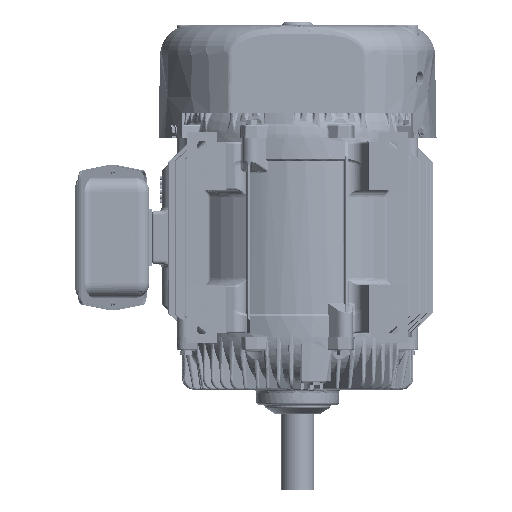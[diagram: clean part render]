
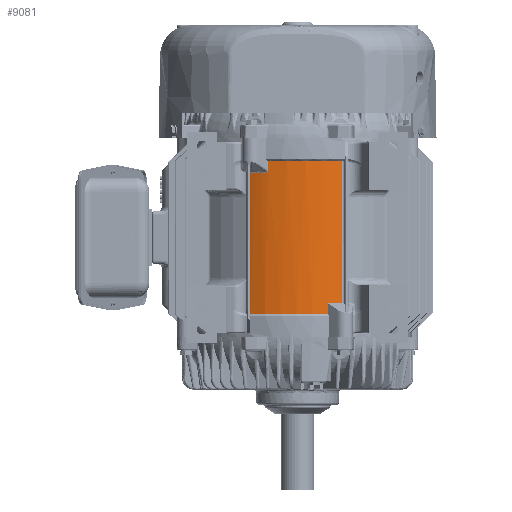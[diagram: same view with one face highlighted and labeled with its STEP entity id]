
A CAD part, front view. The second image highlights one B-rep face of the part: STEP entity #9081.
In plain terms, the highlighted cylindrical face has radius 187.071 mm (diameter 374.142 mm), a partial arc.
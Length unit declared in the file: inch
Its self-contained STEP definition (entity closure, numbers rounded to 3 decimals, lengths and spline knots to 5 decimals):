
#5463 = LINE ( 'NONE', #12067, #207748 ) ;
#8585 = CIRCLE ( 'NONE', #192288, 7.365 ) ;
#9081 = ADVANCED_FACE ( 'NONE', ( #324212 ), #295825, .T. ) ;
#9568 = AXIS2_PLACEMENT_3D ( 'NONE', #84508, #296386, #118580 ) ;
#10809 = EDGE_CURVE ( 'NONE', #81467, #57706, #19691, .T. ) ;
#12067 = CARTESIAN_POINT ( 'NONE',  ( -3.08364, -6.68838, -14.8255 ) ) ;
#16128 = EDGE_CURVE ( 'NONE', #292829, #345186, #364975, .T. ) ;
#19691 = B_SPLINE_CURVE_WITH_KNOTS ( 'NONE', 3,
 ( #265190, #176773, #207091, #354832, #263919, #267749, #24309, #83627, #208376, #87420, #118955, #58517, #298039, #325800, #328350, #147773, #358689, #143956, #178096, #388993 ),
 .UNSPECIFIED., .F., .F.,
 ( 4, 2, 2, 2, 2, 2, 2, 2, 2, 4 ),
 ( 0., 0.00104, 0.00208, 0.00312, 0.00416, 0.0052, 0.00624, 0.00676, 0.00728, 0.00832 ),
 .UNSPECIFIED. ) ;
#20410 = VERTEX_POINT ( 'NONE', #71691 ) ;
#23037 = CARTESIAN_POINT ( 'NONE',  ( 2.9208, -6.76108, -8.5755 ) ) ;
#24309 = CARTESIAN_POINT ( 'NONE',  ( -1.99868, -7.08863, -4.30883 ) ) ;
#26605 = LINE ( 'NONE', #250754, #210060 ) ;
#32342 = DIRECTION ( 'NONE',  ( 0., 0., -1. ) ) ;
#41994 = AXIS2_PLACEMENT_3D ( 'NONE', #177966, #208260, #238568 ) ;
#54630 = EDGE_CURVE ( 'NONE', #176066, #57706, #313638, .T. ) ;
#57706 = VERTEX_POINT ( 'NONE', #356410 ) ;
#58517 = CARTESIAN_POINT ( 'NONE',  ( -1.92532, -7.1089, -4.23258 ) ) ;
#67768 = CIRCLE ( 'NONE', #367894, 7.365 ) ;
#68054 = CARTESIAN_POINT ( 'NONE',  ( -1.90154, -7.11529, -3.5855 ) ) ;
#69813 = EDGE_CURVE ( 'NONE', #153656, #99308, #67768, .T. ) ;
#71691 = CARTESIAN_POINT ( 'NONE',  ( -3.05442, -6.70177, -4.33373 ) ) ;
#75874 = DIRECTION ( 'NONE',  ( -1., 0., 0. ) ) ;
#79776 = DIRECTION ( 'NONE',  ( 0., 0., -1. ) ) ;
#81467 = VERTEX_POINT ( 'NONE', #83170 ) ;
#83170 = CARTESIAN_POINT ( 'NONE',  ( -2.09998, -7.05927, -4.33373 ) ) ;
#83627 = CARTESIAN_POINT ( 'NONE',  ( -1.97641, -7.09487, -4.2941 ) ) ;
#84508 = CARTESIAN_POINT ( 'NONE',  ( 0., 0., -4.33373 ) ) ;
#87301 = CARTESIAN_POINT ( 'NONE',  ( -3.08364, -6.68838, -4.42122 ) ) ;
#87420 = CARTESIAN_POINT ( 'NONE',  ( -1.94768, -7.10281, -4.26637 ) ) ;
#87639 = VECTOR ( 'NONE', #32342, 39.37008 ) ;
#97643 = DIRECTION ( 'NONE',  ( 0., 0., 1. ) ) ;
#99308 = VERTEX_POINT ( 'NONE', #201205 ) ;
#100274 = ORIENTED_EDGE ( 'NONE', *, *, #54630, .T. ) ;
#101578 = DIRECTION ( 'NONE',  ( -1., 0., 0. ) ) ;
#113758 = EDGE_CURVE ( 'NONE', #20410, #361337, #168703, .T. ) ;
#114917 = CARTESIAN_POINT ( 'NONE',  ( 1.96615, -7.09771, -12.85655 ) ) ;
#117667 = CIRCLE ( 'NONE', #41994, 7.365 ) ;
#118580 = DIRECTION ( 'NONE',  ( -1., 0., 0. ) ) ;
#118852 = CARTESIAN_POINT ( 'NONE',  ( -3.08025, -6.68994, -4.39575 ) ) ;
#118955 = CARTESIAN_POINT ( 'NONE',  ( -1.93932, -7.10509, -4.2555 ) ) ;
#120653 = CARTESIAN_POINT ( 'NONE',  ( 2.9208, -6.76108, -12.85655 ) ) ;
#129610 = DIRECTION ( 'NONE',  ( 0., 0., -1. ) ) ;
#139069 = EDGE_CURVE ( 'NONE', #211226, #292829, #8585, .T. ) ;
#143956 = CARTESIAN_POINT ( 'NONE',  ( -1.90258, -7.11501, -4.15474 ) ) ;
#144468 = EDGE_CURVE ( 'NONE', #81467, #20410, #275146, .T. ) ;
#147773 = CARTESIAN_POINT ( 'NONE',  ( -1.90724, -7.11376, -4.18147 ) ) ;
#153656 = VERTEX_POINT ( 'NONE', #281366 ) ;
#159483 = CARTESIAN_POINT ( 'NONE',  ( 0., 0., -13.5655 ) ) ;
#168703 = B_SPLINE_CURVE_WITH_KNOTS ( 'NONE', 3,
 ( #237307, #326978, #356005, #388884, #118852, #385039, #87301, #266356 ),
 .UNSPECIFIED., .F., .F.,
 ( 4, 2, 2, 4 ),
 ( 0., 0.0013, 0.00195, 0.0026 ),
 .UNSPECIFIED. ) ;
#169530 = EDGE_LOOP ( 'NONE', ( #281781, #357824, #299430, #100274, #359739, #365672, #246984, #296152, #368629, #385483 ) ) ;
#174215 = DIRECTION ( 'NONE',  ( 0., 0., 1. ) ) ;
#176066 = VERTEX_POINT ( 'NONE', #68054 ) ;
#176773 = CARTESIAN_POINT ( 'NONE',  ( -2.08681, -7.06319, -4.33373 ) ) ;
#177966 = CARTESIAN_POINT ( 'NONE',  ( 0., 0., -3.5855 ) ) ;
#178096 = CARTESIAN_POINT ( 'NONE',  ( -1.90154, -7.11529, -4.14117 ) ) ;
#178485 = AXIS2_PLACEMENT_3D ( 'NONE', #256138, #79776, #75874 ) ;
#192288 = AXIS2_PLACEMENT_3D ( 'NONE', #368993, #97643, #101578 ) ;
#193583 = DIRECTION ( 'NONE',  ( 0., 0., 1. ) ) ;
#201205 = CARTESIAN_POINT ( 'NONE',  ( -3.08364, -6.68838, -13.5655 ) ) ;
#207091 = CARTESIAN_POINT ( 'NONE',  ( -2.07374, -7.06704, -4.33264 ) ) ;
#207748 = VECTOR ( 'NONE', #193583, 39.37008 ) ;
#208260 = DIRECTION ( 'NONE',  ( 0., 0., -1. ) ) ;
#208376 = CARTESIAN_POINT ( 'NONE',  ( -1.96621, -7.0977, -4.28561 ) ) ;
#210060 = VECTOR ( 'NONE', #129610, 39.37008 ) ;
#211226 = VERTEX_POINT ( 'NONE', #114917 ) ;
#215403 = EDGE_CURVE ( 'NONE', #211226, #153656, #26605, .T. ) ;
#224112 = EDGE_CURVE ( 'NONE', #345186, #176066, #117667, .T. ) ;
#237307 = CARTESIAN_POINT ( 'NONE',  ( -3.05442, -6.70177, -4.33373 ) ) ;
#238568 = DIRECTION ( 'NONE',  ( -1., 0., 0. ) ) ;
#246984 = ORIENTED_EDGE ( 'NONE', *, *, #113758, .T. ) ;
#250754 = CARTESIAN_POINT ( 'NONE',  ( 1.96615, -7.09771, -13.5205 ) ) ;
#256138 = CARTESIAN_POINT ( 'NONE',  ( 0., 0., -8.5755 ) ) ;
#263919 = CARTESIAN_POINT ( 'NONE',  ( -2.03503, -7.07828, -4.32447 ) ) ;
#265190 = CARTESIAN_POINT ( 'NONE',  ( -2.09998, -7.05927, -4.33373 ) ) ;
#266356 = CARTESIAN_POINT ( 'NONE',  ( -3.08364, -6.68838, -4.42989 ) ) ;
#267749 = CARTESIAN_POINT ( 'NONE',  ( -2.01054, -7.08528, -4.31491 ) ) ;
#275146 = CIRCLE ( 'NONE', #9568, 7.365 ) ;
#281366 = CARTESIAN_POINT ( 'NONE',  ( 1.96615, -7.09771, -13.5655 ) ) ;
#281781 = ORIENTED_EDGE ( 'NONE', *, *, #139069, .T. ) ;
#292829 = VERTEX_POINT ( 'NONE', #120653 ) ;
#295825 = CYLINDRICAL_SURFACE ( 'NONE', #178485, 7.365 ) ;
#296152 = ORIENTED_EDGE ( 'NONE', *, *, #350007, .F. ) ;
#296386 = DIRECTION ( 'NONE',  ( 0., 0., -1. ) ) ;
#298039 = CARTESIAN_POINT ( 'NONE',  ( -1.91955, -7.11045, -4.22044 ) ) ;
#299430 = ORIENTED_EDGE ( 'NONE', *, *, #224112, .T. ) ;
#300851 = CARTESIAN_POINT ( 'NONE',  ( -1.90154, -7.11529, -8.5755 ) ) ;
#313638 = LINE ( 'NONE', #300851, #87639 ) ;
#324212 = FACE_OUTER_BOUND ( 'NONE', #169530, .T. ) ;
#325800 = CARTESIAN_POINT ( 'NONE',  ( -1.91264, -7.11232, -4.20125 ) ) ;
#326978 = CARTESIAN_POINT ( 'NONE',  ( -3.06355, -6.69761, -4.34783 ) ) ;
#328350 = CARTESIAN_POINT ( 'NONE',  ( -1.91063, -7.11286, -4.19467 ) ) ;
#339810 = CARTESIAN_POINT ( 'NONE',  ( 2.9208, -6.76108, -3.5855 ) ) ;
#340124 = DIRECTION ( 'NONE',  ( 0., 0., -1. ) ) ;
#345186 = VERTEX_POINT ( 'NONE', #339810 ) ;
#346102 = VECTOR ( 'NONE', #174215, 39.37008 ) ;
#350007 = EDGE_CURVE ( 'NONE', #99308, #361337, #5463, .T. ) ;
#354832 = CARTESIAN_POINT ( 'NONE',  ( -2.04786, -7.07458, -4.32802 ) ) ;
#356005 = CARTESIAN_POINT ( 'NONE',  ( -3.07067, -6.69434, -4.36297 ) ) ;
#356410 = CARTESIAN_POINT ( 'NONE',  ( -1.90154, -7.11529, -4.12744 ) ) ;
#357824 = ORIENTED_EDGE ( 'NONE', *, *, #16128, .T. ) ;
#358689 = CARTESIAN_POINT ( 'NONE',  ( -1.90586, -7.11413, -4.17482 ) ) ;
#359739 = ORIENTED_EDGE ( 'NONE', *, *, #10809, .F. ) ;
#361337 = VERTEX_POINT ( 'NONE', #365628 ) ;
#364975 = LINE ( 'NONE', #23037, #346102 ) ;
#365628 = CARTESIAN_POINT ( 'NONE',  ( -3.08364, -6.68838, -4.42989 ) ) ;
#365672 = ORIENTED_EDGE ( 'NONE', *, *, #144468, .T. ) ;
#367894 = AXIS2_PLACEMENT_3D ( 'NONE', #159483, #340124, #370391 ) ;
#368629 = ORIENTED_EDGE ( 'NONE', *, *, #69813, .F. ) ;
#368993 = CARTESIAN_POINT ( 'NONE',  ( 0., 0., -12.85655 ) ) ;
#370391 = DIRECTION ( 'NONE',  ( -1., 0., 0. ) ) ;
#385039 = CARTESIAN_POINT ( 'NONE',  ( -3.08292, -6.68871, -4.41267 ) ) ;
#385483 = ORIENTED_EDGE ( 'NONE', *, *, #215403, .F. ) ;
#388884 = CARTESIAN_POINT ( 'NONE',  ( -3.07826, -6.69086, -4.38733 ) ) ;
#388993 = CARTESIAN_POINT ( 'NONE',  ( -1.90154, -7.11529, -4.12744 ) ) ;
